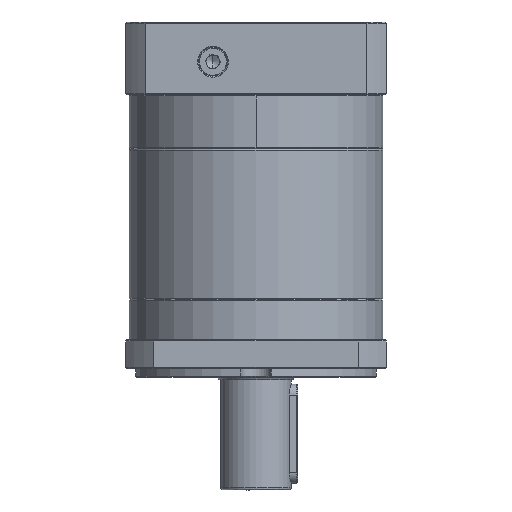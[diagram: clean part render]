
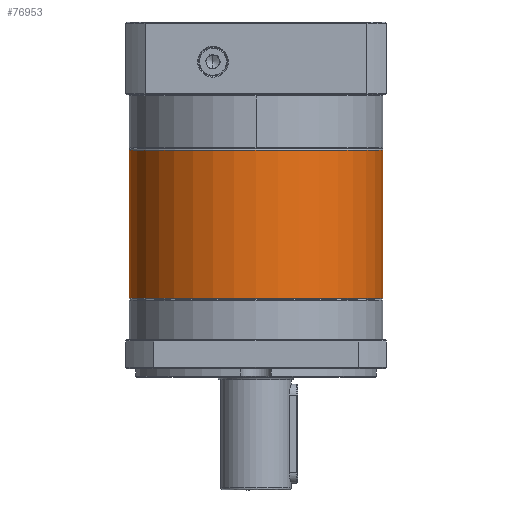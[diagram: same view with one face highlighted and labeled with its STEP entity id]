
A CAD part, front view. The second image highlights one B-rep face of the part: STEP entity #76953.
In plain terms, the highlighted cylindrical face has radius 57.5 mm (diameter 115 mm), a partial arc.
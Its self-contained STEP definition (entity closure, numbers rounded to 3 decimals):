
#4631 = CARTESIAN_POINT ( 'NONE',  ( 69.759, 44.19, -127.17 ) ) ;
#6003 = ORIENTED_EDGE ( 'NONE', *, *, #31209, .T. ) ;
#8094 = EDGE_CURVE ( 'NONE', #123004, #108516, #119767, .T. ) ;
#8314 = EDGE_CURVE ( 'NONE', #123189, #118607, #121328, .T. ) ;
#13522 = ORIENTED_EDGE ( 'NONE', *, *, #8094, .T. ) ;
#16145 = DIRECTION ( 'NONE',  ( 0., 0., -1. ) ) ;
#17059 = CYLINDRICAL_SURFACE ( 'NONE', #116110, 57.5 ) ;
#21350 = VECTOR ( 'NONE', #16145, 1000. ) ;
#24848 = DIRECTION ( 'NONE',  ( 0., 0., 1. ) ) ;
#26133 = CIRCLE ( 'NONE', #99150, 57.5 ) ;
#27814 = CARTESIAN_POINT ( 'NONE',  ( 69.759, -13.31, -59.959 ) ) ;
#31209 = EDGE_CURVE ( 'NONE', #108516, #113443, #58332, .T. ) ;
#33803 = DIRECTION ( 'NONE',  ( 0., 0., -1. ) ) ;
#34674 = CARTESIAN_POINT ( 'NONE',  ( 12.259, 44.19, -59.459 ) ) ;
#36078 = DIRECTION ( 'NONE',  ( -1., 0., 0. ) ) ;
#37229 = EDGE_CURVE ( 'NONE', #113443, #118607, #26133, .T. ) ;
#40825 = CARTESIAN_POINT ( 'NONE',  ( 127.259, 44.19, -59.959 ) ) ;
#50688 = CARTESIAN_POINT ( 'NONE',  ( 69.759, 44.19, -59.959 ) ) ;
#57275 = CARTESIAN_POINT ( 'NONE',  ( 12.259, 44.19, -127.17 ) ) ;
#57464 = AXIS2_PLACEMENT_3D ( 'NONE', #106151, #64820, #75144 ) ;
#58332 = LINE ( 'NONE', #34674, #127645 ) ;
#58908 = FACE_OUTER_BOUND ( 'NONE', #93406, .T. ) ;
#64820 = DIRECTION ( 'NONE',  ( 0., 0., -1. ) ) ;
#67405 = CARTESIAN_POINT ( 'NONE',  ( 127.259, 44.19, -59.459 ) ) ;
#75144 = DIRECTION ( 'NONE',  ( -1., 0., 0. ) ) ;
#76953 = ADVANCED_FACE ( 'NONE', ( #58908 ), #17059, .T. ) ;
#77485 = DIRECTION ( 'NONE',  ( 0., 0., -1. ) ) ;
#77672 = CARTESIAN_POINT ( 'NONE',  ( 127.259, 44.19, -127.17 ) ) ;
#93406 = EDGE_LOOP ( 'NONE', ( #100054, #128433, #13522, #6003, #108056 ) ) ;
#95316 = EDGE_CURVE ( 'NONE', #123189, #123004, #124536, .T. ) ;
#99150 = AXIS2_PLACEMENT_3D ( 'NONE', #4631, #24848, #36078 ) ;
#100054 = ORIENTED_EDGE ( 'NONE', *, *, #8314, .F. ) ;
#106151 = CARTESIAN_POINT ( 'NONE',  ( 69.759, 44.19, -59.959 ) ) ;
#108056 = ORIENTED_EDGE ( 'NONE', *, *, #37229, .T. ) ;
#108516 = VERTEX_POINT ( 'NONE', #126840 ) ;
#109956 = DIRECTION ( 'NONE',  ( -1., 0., 0. ) ) ;
#113443 = VERTEX_POINT ( 'NONE', #57275 ) ;
#116110 = AXIS2_PLACEMENT_3D ( 'NONE', #119017, #77485, #109956 ) ;
#118607 = VERTEX_POINT ( 'NONE', #77672 ) ;
#119017 = CARTESIAN_POINT ( 'NONE',  ( 69.759, 44.19, -59.459 ) ) ;
#119767 = CIRCLE ( 'NONE', #57464, 57.5 ) ;
#121328 = LINE ( 'NONE', #67405, #21350 ) ;
#123004 = VERTEX_POINT ( 'NONE', #27814 ) ;
#123189 = VERTEX_POINT ( 'NONE', #40825 ) ;
#123217 = DIRECTION ( 'NONE',  ( -1., 0., 0. ) ) ;
#124536 = CIRCLE ( 'NONE', #133566, 57.5 ) ;
#126840 = CARTESIAN_POINT ( 'NONE',  ( 12.259, 44.19, -59.959 ) ) ;
#127645 = VECTOR ( 'NONE', #33803, 1000. ) ;
#128433 = ORIENTED_EDGE ( 'NONE', *, *, #95316, .T. ) ;
#133138 = DIRECTION ( 'NONE',  ( 0., 0., -1. ) ) ;
#133566 = AXIS2_PLACEMENT_3D ( 'NONE', #50688, #133138, #123217 ) ;
